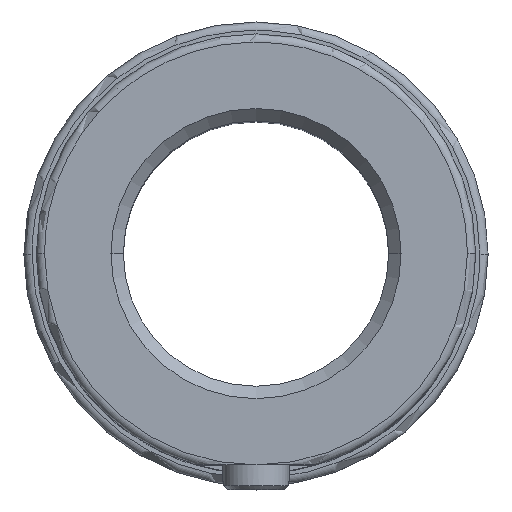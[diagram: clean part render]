
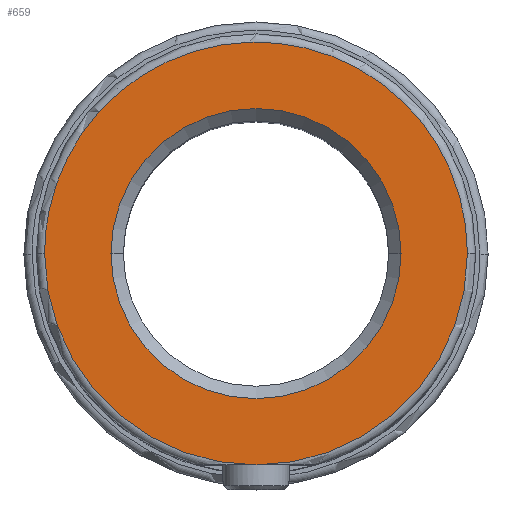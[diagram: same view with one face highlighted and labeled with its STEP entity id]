
A CAD part, top view. The second image highlights one B-rep face of the part: STEP entity #659.
In plain terms, the highlighted planar face has unit normal (0, 0, 1).
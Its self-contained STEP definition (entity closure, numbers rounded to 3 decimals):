
#307=CARTESIAN_POINT('Vertex',(0.,-25.5,45.)) ;
#423=CARTESIAN_POINT('Vertex',(-17.5,0.,45.)) ;
#426=CARTESIAN_POINT('Axis2P3D Location',(0.,0.,45.)) ;
#430=CARTESIAN_POINT('Vertex',(17.5,0.,45.)) ;
#518=CARTESIAN_POINT('Vertex',(25.5,0.,45.)) ;
#521=CARTESIAN_POINT('Axis2P3D Location',(0.,0.,45.)) ;
#542=CARTESIAN_POINT('Vertex',(-25.5,0.,45.)) ;
#545=CARTESIAN_POINT('Axis2P3D Location',(0.,0.,45.)) ;
#607=CARTESIAN_POINT('Axis2P3D Location',(0.,0.,45.)) ;
#619=CARTESIAN_POINT('Axis2P3D Location',(-17.5,0.,45.)) ;
#625=CARTESIAN_POINT('Control Point',(25.5,0.,45.)) ;
#626=CARTESIAN_POINT('Control Point',(25.5,2.474,45.)) ;
#627=CARTESIAN_POINT('Control Point',(25.2,4.948,45.)) ;
#628=CARTESIAN_POINT('Control Point',(24.6,7.373,45.)) ;
#629=CARTESIAN_POINT('Control Point',(22.824,12.03,45.)) ;
#630=CARTESIAN_POINT('Control Point',(19.986,16.127,45.)) ;
#631=CARTESIAN_POINT('Control Point',(18.324,17.993,45.)) ;
#632=CARTESIAN_POINT('Control Point',(14.582,21.284,45.)) ;
#633=CARTESIAN_POINT('Control Point',(10.161,23.585,45.)) ;
#634=CARTESIAN_POINT('Control Point',(7.821,24.461,45.)) ;
#635=CARTESIAN_POINT('Control Point',(2.975,25.628,45.)) ;
#636=CARTESIAN_POINT('Control Point',(-2.008,25.602,45.)) ;
#637=CARTESIAN_POINT('Control Point',(-4.487,25.286,45.)) ;
#638=CARTESIAN_POINT('Control Point',(-9.317,24.059,45.)) ;
#639=CARTESIAN_POINT('Control Point',(-13.714,21.713,45.)) ;
#640=CARTESIAN_POINT('Control Point',(-15.76,20.277,45.)) ;
#641=CARTESIAN_POINT('Control Point',(-19.46,16.939,45.)) ;
#642=CARTESIAN_POINT('Control Point',(-22.256,12.813,45.)) ;
#643=CARTESIAN_POINT('Control Point',(-23.396,10.59,45.)) ;
#644=CARTESIAN_POINT('Control Point',(-24.664,7.136,45.)) ;
#645=CARTESIAN_POINT('Control Point',(-25.296,3.532,45.)) ;
#646=CARTESIAN_POINT('Control Point',(-25.432,2.358,45.)) ;
#647=CARTESIAN_POINT('Control Point',(-25.5,1.179,45.)) ;
#648=CARTESIAN_POINT('Control Point',(-25.5,0.,45.)) ;
#427=DIRECTION('Axis2P3D Direction',(0.,-0.,1.)) ;
#522=DIRECTION('Axis2P3D Direction',(0.,-0.,1.)) ;
#546=DIRECTION('Axis2P3D Direction',(0.,-0.,1.)) ;
#608=DIRECTION('Axis2P3D Direction',(0.,-0.,1.)) ;
#620=DIRECTION('Axis2P3D Direction',(0.,0.,-1.)) ;
#621=DIRECTION('Axis2P3D XDirection',(-1.,0.,-0.)) ;
#428=AXIS2_PLACEMENT_3D('Circle Axis2P3D',#426,#427,$) ;
#523=AXIS2_PLACEMENT_3D('Circle Axis2P3D',#521,#522,$) ;
#547=AXIS2_PLACEMENT_3D('Circle Axis2P3D',#545,#546,$) ;
#609=AXIS2_PLACEMENT_3D('Circle Axis2P3D',#607,#608,$) ;
#622=AXIS2_PLACEMENT_3D('Plane Axis2P3D',#619,#620,#621) ;
#651=ORIENTED_EDGE('',*,*,#525,.T.) ;
#652=ORIENTED_EDGE('',*,*,#649,.T.) ;
#653=ORIENTED_EDGE('',*,*,#549,.T.) ;
#656=ORIENTED_EDGE('',*,*,#611,.F.) ;
#657=ORIENTED_EDGE('',*,*,#432,.F.) ;
#658=FACE_BOUND('',#655,.T.) ;
#659=ADVANCED_FACE('744-32 sol1',(#654,#658),#623,.F.) ;
#624=B_SPLINE_CURVE_WITH_KNOTS('',5,(#625,#626,#627,#628,#629,#630,#631,#632,#633,#634,#635,#636,#637,#638,#639,#640,#641,#642,#643,#644,#645,#646,#647,#648),.UNSPECIFIED.,.F.,.U.,(6,3,3,3,3,3,3,6),(0.,17.493,34.985,52.478,69.971,87.463,104.956,113.292),.UNSPECIFIED.) ;
#429=CIRCLE('generated circle',#428,17.5) ;
#524=CIRCLE('generated circle',#523,25.5) ;
#548=CIRCLE('generated circle',#547,25.5) ;
#610=CIRCLE('generated circle',#609,17.5) ;
#432=EDGE_CURVE('',#424,#431,#429,.T.) ;
#525=EDGE_CURVE('',#308,#519,#524,.T.) ;
#549=EDGE_CURVE('',#543,#308,#548,.T.) ;
#611=EDGE_CURVE('',#431,#424,#610,.T.) ;
#649=EDGE_CURVE('',#519,#543,#624,.T.) ;
#650=EDGE_LOOP('',(#651,#652,#653)) ;
#655=EDGE_LOOP('',(#656,#657)) ;
#654=FACE_OUTER_BOUND('',#650,.T.) ;
#623=PLANE('Plane',#622) ;
#308=VERTEX_POINT('',#307) ;
#424=VERTEX_POINT('',#423) ;
#431=VERTEX_POINT('',#430) ;
#519=VERTEX_POINT('',#518) ;
#543=VERTEX_POINT('',#542) ;
